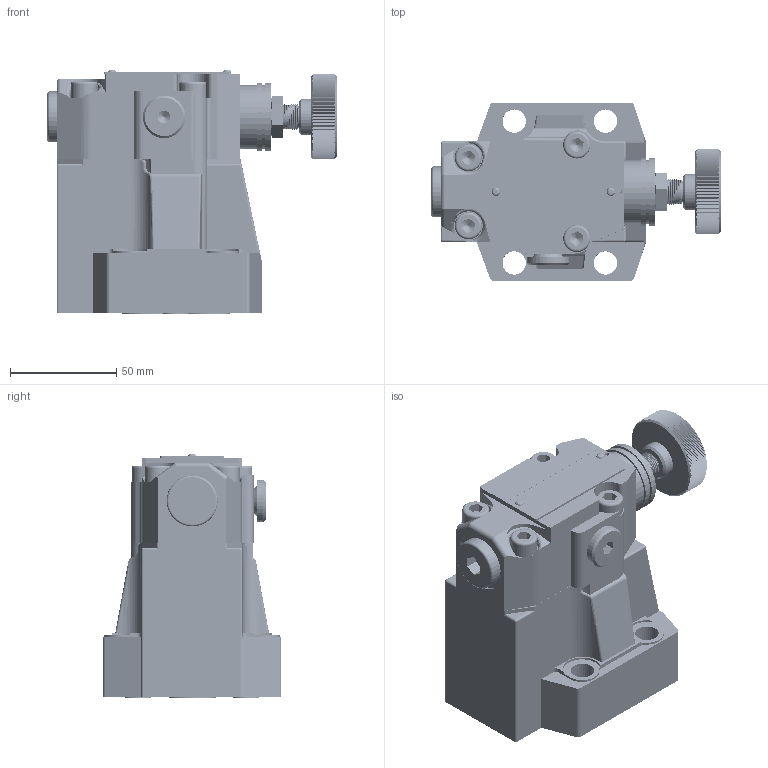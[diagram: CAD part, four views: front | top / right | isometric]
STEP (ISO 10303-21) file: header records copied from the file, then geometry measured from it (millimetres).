
FILE_DESCRIPTION(/* description */ (''),/* implementation_level */ '2;1');
FILE_NAME(/* name */ 'DZ10-5XJ先导式顺序阀.prt.stp',/* time_stamp */ '2022-03-30T20:18:52+08:00',/* author */ (''),/* organization */ (''),/* preprocessor_version */ 'ST-DEVELOPER v16.7',/* originating_system */ 'SIEMENS PLM Software NX 12.0',/* authorisation */ '');
FILE_SCHEMA (('AUTOMOTIVE_DESIGN { 1 0 10303 214 3 1 1 1 }'));
Products named in the file (1): DZ10-5XJ先导式顺序阀
Bounding box: 135.9 x 83.85 x 114.6 mm (x, y, z)
Volume: 209451.4 mm3; surface area: 112375.9 mm2
Topology: 23 solids, 26 shells, 1126 faces, 3013 edges, 1955 vertices
Faces by surface type: plane 657, cylinder 303, cone 81, bspline 64, torus 15, sphere 4, revolution 2
Full cylindrical faces by diameter (mm): 1.8 x4, 1.9 x2, 2 x4, 3.4 x16, 4.2 x1, 4.3 x1, 5 x9, 6 x2, 6.3 x1, 6.7 x36, 8 x1, 8.4 x5, 9 x7, 9.8 x1, 10 x5, 11 x4, 11.5 x2, 11.7 x1, 12.2 x2, 12.5 x3, 12.73 x4, 14 x1, 14.5 x1, 15.39 x1, 16 x1, 17 x1, 17.5 x1, 18 x2, 19 x2, 20 x1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
Entity records: 107743 total; most frequent: CARTESIAN_POINT 84053, ORIENTED_EDGE 5216, DIRECTION 4045, EDGE_CURVE 2608, VERTEX_POINT 1778, AXIS2_PLACEMENT_3D 1521, EDGE_LOOP 1261, B_SPLINE_CURVE_WITH_KNOTS 1078
